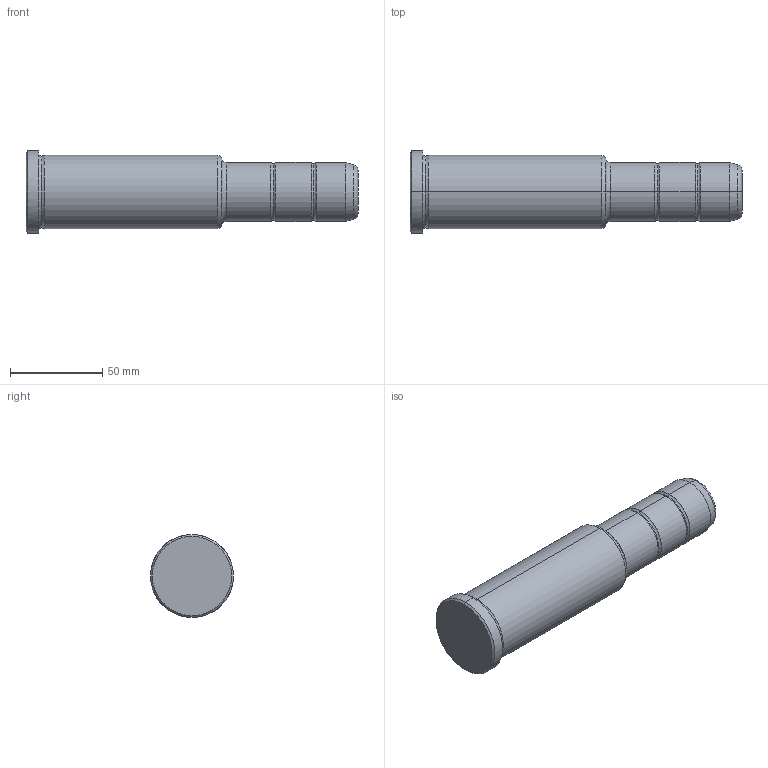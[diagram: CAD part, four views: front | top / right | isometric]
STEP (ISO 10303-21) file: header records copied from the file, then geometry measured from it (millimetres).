
FILE_DESCRIPTION(('CATIA V5 STEP Exchange'),'2;1');
FILE_NAME('C:\Users\Utente\Desktop\IO LAVORO\3D X SITO CF\X SITO\PLASTICA\351\351-32X106X180.stp','2021-09-15T11:48:29+00:00',('none'),('none'),'CATIA Version 5 Release 20 GA (IN-10)','CATIA V5 STEP AP203','none');
FILE_SCHEMA(('CONFIG_CONTROL_DESIGN'));
Length unit declared in the file: millimetre
Products named in the file (1): 351-32X106X180
Bounding box: 180 x 45 x 45 mm (x, y, z)
Volume: 193849.2 mm3; surface area: 23621.1 mm2
Topology: 1 solids, 1 shells, 36 faces, 102 edges, 70 vertices
Faces by surface type: torus 16, cylinder 10, cone 6, plane 4
Entity records: 1292 total; most frequent: CARTESIAN_POINT 321, ORIENTED_EDGE 204, DIRECTION 166, AXIS2_PLACEMENT_3D 115, EDGE_CURVE 102, CIRCLE 78, VERTEX_POINT 70, EDGE_LOOP 38
